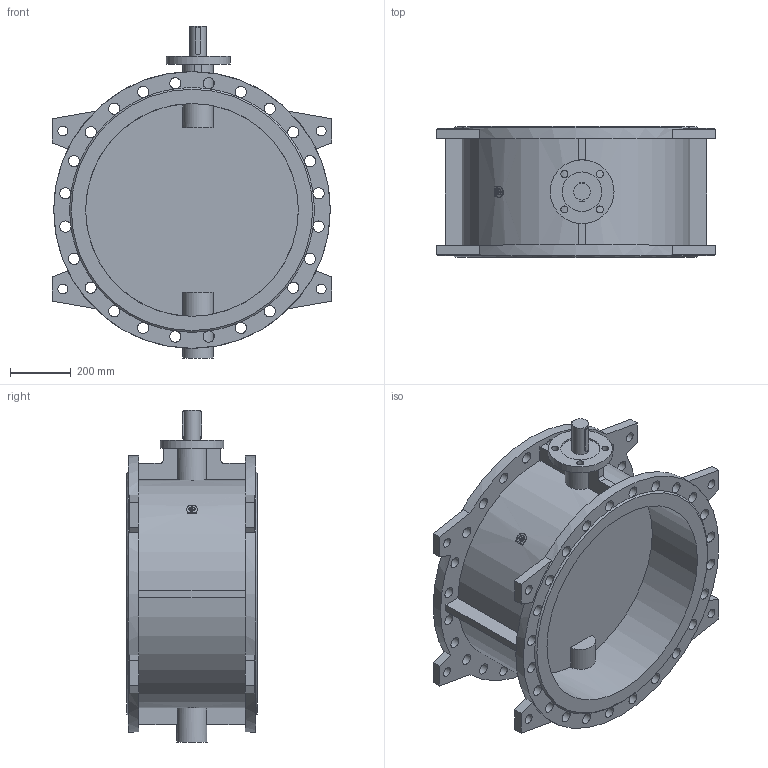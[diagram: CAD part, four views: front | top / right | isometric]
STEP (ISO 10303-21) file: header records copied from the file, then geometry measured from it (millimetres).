
FILE_DESCRIPTION(('STEP AP203'), '1');
FILE_NAME('Çàòâîð 023F.Z DN700 PN16_èñï', '', ('UNSPECIFIED'), ('UNSPECIFIED'), 'ASCON STEP Converter 1.6', 'ASCON Math Kernel', '');
FILE_SCHEMA(('CONFIG_CONTROL_DESIGN'));
Length unit declared in the file: millimetre
Bounding box: 920 x 430 x 1092 mm (x, y, z)
Volume: 66075918.5 mm3; surface area: 4152006.9 mm2
Topology: 1 solids, 1 shells, 174 faces, 621 edges, 414 vertices
Faces by surface type: cylinder 87, plane 85, cone 2
Full cylindrical faces by diameter (mm): 23 x4, 32 x8, 37 x48, 55 x1, 100 x1, 130 x1, 210 x1, 700 x2, 910 x2
Entity records: 10854 total; most frequent: CARTESIAN_POINT 4022, DIRECTION 1118, ORIENTED_EDGE 1100, EDGE_CURVE 550, AXIS2_PLACEMENT_3D 460, VERTEX_POINT 414, EDGE_LOOP 330, CIRCLE 285
